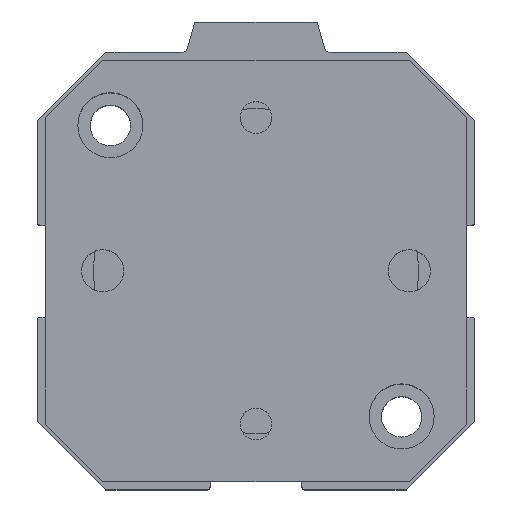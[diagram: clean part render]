
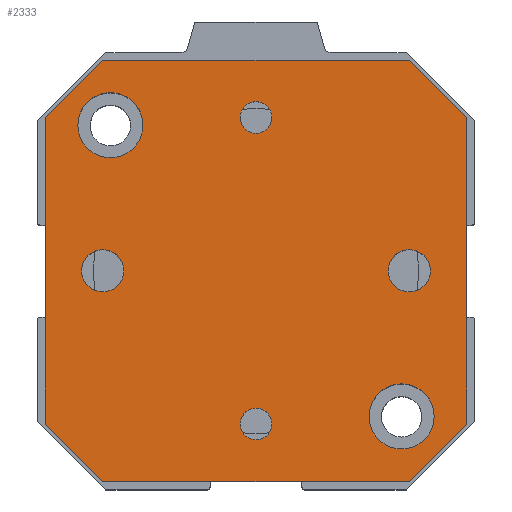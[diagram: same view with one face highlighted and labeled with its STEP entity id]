
A CAD part, top view. The second image highlights one B-rep face of the part: STEP entity #2333.
In plain terms, the highlighted planar face has unit normal (0, 0, 1).
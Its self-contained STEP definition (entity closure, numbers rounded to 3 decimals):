
#177=LINE('',#3896,#343);
#179=LINE('',#3900,#345);
#181=LINE('',#3904,#347);
#183=LINE('',#3908,#349);
#185=LINE('',#3912,#351);
#187=LINE('',#3916,#353);
#189=LINE('',#3920,#355);
#191=LINE('',#3923,#357);
#343=VECTOR('',#3235,40.);
#345=VECTOR('',#3239,10.607);
#347=VECTOR('',#3243,40.);
#349=VECTOR('',#3247,10.607);
#351=VECTOR('',#3251,40.);
#353=VECTOR('',#3255,10.607);
#355=VECTOR('',#3259,40.);
#357=VECTOR('',#3263,10.607);
#431=PLANE('',#2593);
#521=FACE_BOUND('',#846,.T.);
#522=FACE_BOUND('',#847,.T.);
#523=FACE_BOUND('',#848,.T.);
#524=FACE_BOUND('',#849,.T.);
#525=FACE_BOUND('',#850,.T.);
#526=FACE_BOUND('',#851,.T.);
#527=FACE_BOUND('',#852,.T.);
#846=EDGE_LOOP('',(#2038));
#847=EDGE_LOOP('',(#2039));
#848=EDGE_LOOP('',(#2040));
#849=EDGE_LOOP('',(#2041));
#850=EDGE_LOOP('',(#2042));
#851=EDGE_LOOP('',(#2043));
#852=EDGE_LOOP('',(#2044,#2045,#2046,#2047,#2048,#2049,#2050,#2051));
#961=CIRCLE('',#2549,2.067);
#963=CIRCLE('',#2552,2.067);
#968=CIRCLE('',#2560,2.75);
#972=CIRCLE('',#2567,2.75);
#981=CIRCLE('',#2582,4.25);
#982=CIRCLE('',#2584,4.25);
#1157=VERTEX_POINT('',#3814);
#1159=VERTEX_POINT('',#3819);
#1164=VERTEX_POINT('',#3832);
#1168=VERTEX_POINT('',#3843);
#1187=VERTEX_POINT('',#3887);
#1188=VERTEX_POINT('',#3890);
#1189=VERTEX_POINT('',#3893);
#1190=VERTEX_POINT('',#3895);
#1191=VERTEX_POINT('',#3899);
#1192=VERTEX_POINT('',#3903);
#1193=VERTEX_POINT('',#3907);
#1194=VERTEX_POINT('',#3911);
#1195=VERTEX_POINT('',#3915);
#1196=VERTEX_POINT('',#3919);
#1437=EDGE_CURVE('',#1157,#1157,#961,.T.);
#1439=EDGE_CURVE('',#1159,#1159,#963,.T.);
#1444=EDGE_CURVE('',#1164,#1164,#968,.T.);
#1448=EDGE_CURVE('',#1168,#1168,#972,.T.);
#1467=EDGE_CURVE('',#1187,#1187,#981,.T.);
#1468=EDGE_CURVE('',#1188,#1188,#982,.T.);
#1470=EDGE_CURVE('',#1190,#1189,#177,.T.);
#1472=EDGE_CURVE('',#1191,#1190,#179,.T.);
#1474=EDGE_CURVE('',#1192,#1191,#181,.T.);
#1476=EDGE_CURVE('',#1193,#1192,#183,.T.);
#1478=EDGE_CURVE('',#1194,#1193,#185,.T.);
#1480=EDGE_CURVE('',#1195,#1194,#187,.T.);
#1482=EDGE_CURVE('',#1196,#1195,#189,.T.);
#1484=EDGE_CURVE('',#1189,#1196,#191,.T.);
#2038=ORIENTED_EDGE('',*,*,#1437,.T.);
#2039=ORIENTED_EDGE('',*,*,#1439,.T.);
#2040=ORIENTED_EDGE('',*,*,#1444,.T.);
#2041=ORIENTED_EDGE('',*,*,#1448,.T.);
#2042=ORIENTED_EDGE('',*,*,#1467,.T.);
#2043=ORIENTED_EDGE('',*,*,#1468,.T.);
#2044=ORIENTED_EDGE('',*,*,#1484,.T.);
#2045=ORIENTED_EDGE('',*,*,#1482,.T.);
#2046=ORIENTED_EDGE('',*,*,#1480,.T.);
#2047=ORIENTED_EDGE('',*,*,#1478,.T.);
#2048=ORIENTED_EDGE('',*,*,#1476,.T.);
#2049=ORIENTED_EDGE('',*,*,#1474,.T.);
#2050=ORIENTED_EDGE('',*,*,#1472,.T.);
#2051=ORIENTED_EDGE('',*,*,#1470,.T.);
#2333=ADVANCED_FACE('',(#521,#522,#523,#524,#525,#526,#527),#431,.T.);
#2549=AXIS2_PLACEMENT_3D('',#3815,#3150,#3151);
#2552=AXIS2_PLACEMENT_3D('',#3820,#3156,#3157);
#2560=AXIS2_PLACEMENT_3D('',#3833,#3172,#3173);
#2567=AXIS2_PLACEMENT_3D('',#3844,#3186,#3187);
#2582=AXIS2_PLACEMENT_3D('',#3888,#3226,#3227);
#2584=AXIS2_PLACEMENT_3D('',#3891,#3230,#3231);
#2593=AXIS2_PLACEMENT_3D('',#3924,#3264,#3265);
#3150=DIRECTION('center_axis',(0.,0.,-1.));
#3151=DIRECTION('ref_axis',(1.,0.,0.));
#3156=DIRECTION('center_axis',(0.,0.,-1.));
#3157=DIRECTION('ref_axis',(1.,0.,0.));
#3172=DIRECTION('center_axis',(0.,0.,-1.));
#3173=DIRECTION('ref_axis',(1.,0.,0.));
#3186=DIRECTION('center_axis',(0.,0.,-1.));
#3187=DIRECTION('ref_axis',(1.,0.,0.));
#3226=DIRECTION('center_axis',(0.,0.,-1.));
#3227=DIRECTION('ref_axis',(-1.,0.,0.));
#3230=DIRECTION('center_axis',(0.,0.,-1.));
#3231=DIRECTION('ref_axis',(-1.,0.,0.));
#3235=DIRECTION('',(0.,1.,0.));
#3239=DIRECTION('',(0.707,0.707,0.));
#3243=DIRECTION('',(1.,0.,0.));
#3247=DIRECTION('',(0.707,-0.707,0.));
#3251=DIRECTION('',(0.,-1.,0.));
#3255=DIRECTION('',(-0.707,-0.707,0.));
#3259=DIRECTION('',(-1.,0.,0.));
#3263=DIRECTION('',(-0.707,0.707,0.));
#3264=DIRECTION('center_axis',(0.,0.,1.));
#3265=DIRECTION('ref_axis',(1.,0.,0.));
#3814=CARTESIAN_POINT('',(-22.067,0.,35.25));
#3815=CARTESIAN_POINT('Origin',(-20.,0.,35.25));
#3819=CARTESIAN_POINT('',(17.933,0.,35.25));
#3820=CARTESIAN_POINT('Origin',(20.,0.,35.25));
#3832=CARTESIAN_POINT('',(-2.75,20.,35.25));
#3833=CARTESIAN_POINT('Origin',(0.,20.,35.25));
#3843=CARTESIAN_POINT('',(-2.75,-20.,35.25));
#3844=CARTESIAN_POINT('Origin',(0.,-20.,35.25));
#3887=CARTESIAN_POINT('',(-14.75,-19.,35.25));
#3888=CARTESIAN_POINT('Origin',(-19.,-19.,35.25));
#3890=CARTESIAN_POINT('',(23.25,19.,35.25));
#3891=CARTESIAN_POINT('Origin',(19.,19.,35.25));
#3893=CARTESIAN_POINT('',(27.5,20.,35.25));
#3895=CARTESIAN_POINT('',(27.5,-20.,35.25));
#3896=CARTESIAN_POINT('',(27.5,20.,35.25));
#3899=CARTESIAN_POINT('',(20.,-27.5,35.25));
#3900=CARTESIAN_POINT('',(27.5,-20.,35.25));
#3903=CARTESIAN_POINT('',(-20.,-27.5,35.25));
#3904=CARTESIAN_POINT('',(20.,-27.5,35.25));
#3907=CARTESIAN_POINT('',(-27.5,-20.,35.25));
#3908=CARTESIAN_POINT('',(-20.,-27.5,35.25));
#3911=CARTESIAN_POINT('',(-27.5,20.,35.25));
#3912=CARTESIAN_POINT('',(-27.5,-20.,35.25));
#3915=CARTESIAN_POINT('',(-20.,27.5,35.25));
#3916=CARTESIAN_POINT('',(-27.5,20.,35.25));
#3919=CARTESIAN_POINT('',(20.,27.5,35.25));
#3920=CARTESIAN_POINT('',(-20.,27.5,35.25));
#3923=CARTESIAN_POINT('',(20.,27.5,35.25));
#3924=CARTESIAN_POINT('Origin',(0.,0.,35.25));
